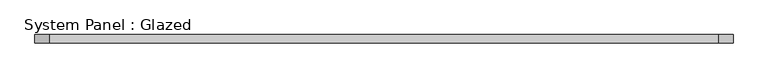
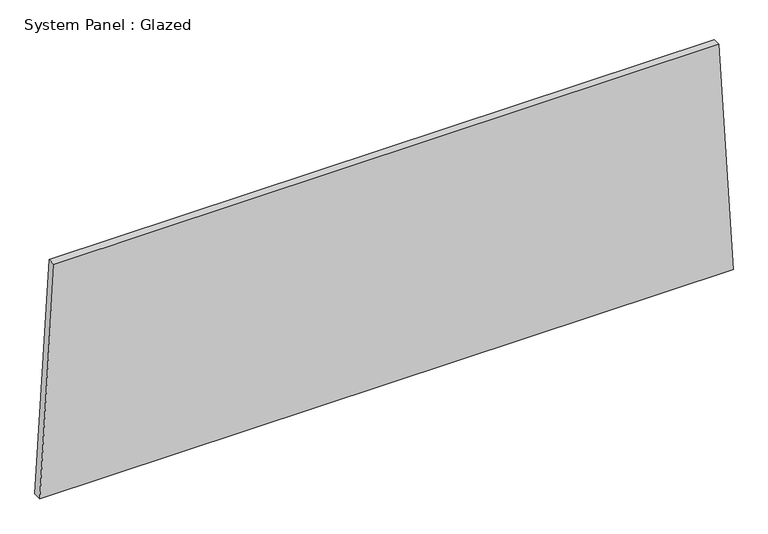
"""IFC4 building model written with IfcOpenShell, lengths in millimetres: plate geometry, System Panel : Glazed."""

from ifc_helpers import new_model, si_unit, frame, origin, place, context, project, spatial, polyline, outline, extrude, source, transform, mapped, element, save


def system_panel_glazed_10998a2e(model_context):
    return source(origin(), model_context, "Body", "SweptSolid", [
        extrude(outline(polyline([(0.0, -1049.1992511), (0.0, 1049.1992511), (735.3003601, 1006.1991075), (735.3003601, -1006.1991075), (0.0, -1049.1992511)])), frame((0.0, -44.45, 0.0), z_axis=(0.0, 1.0, 0.0), x_axis=(0.0, 0.0, 1.0)), (0.0, 0.0, 1.0), 25.4),
    ])


if __name__ == "__main__":
    model = new_model("IFC4")
    model_context = context("Model", 3, world=origin())
    ifc_project = project(units=[si_unit("LENGTHUNIT", "METRE", prefix="MILLI")], contexts=[model_context])
    site = spatial("IfcSite", under=ifc_project)
    building = spatial("IfcBuilding", under=site)
    placement = place(None, origin())
    system_panel_glazed_shape = system_panel_glazed_10998a2e(model_context)
    element("IfcPlate", 1, ObjectType="System Panel : Glazed", at=placement, inside=building, context=model_context, shape_type="MappedRepresentation", body=[
        mapped(system_panel_glazed_shape, transform((0.0, 0.0, 0.0), x_axis=(1.0, 0.0, 0.0), y_axis=(0.0, 1.0, 0.0), z_axis=(0.0, 0.0, 1.0))),
    ])
    save(model, "model.ifc")
